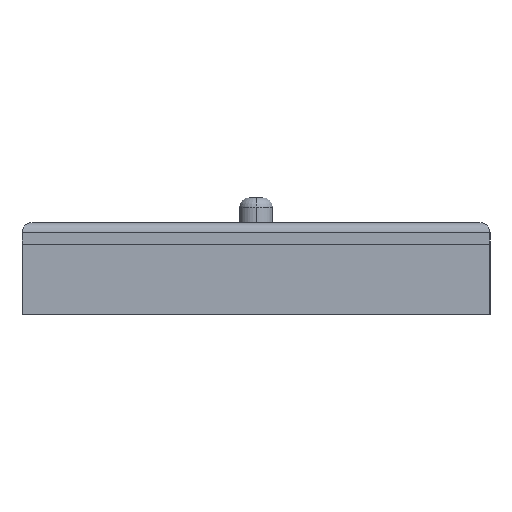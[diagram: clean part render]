
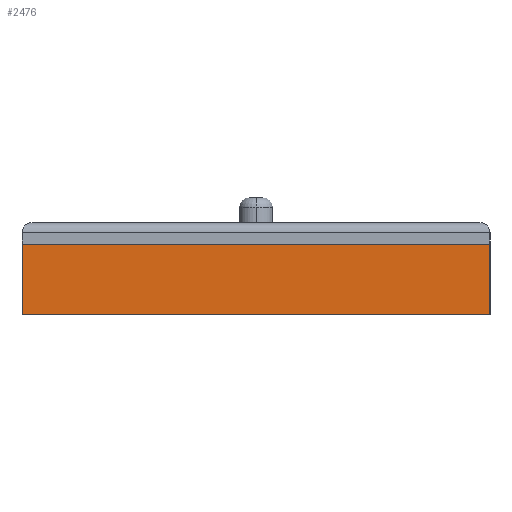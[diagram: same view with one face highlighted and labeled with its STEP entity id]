
A CAD part, left-side view. The second image highlights one B-rep face of the part: STEP entity #2476.
In plain terms, the highlighted planar face has unit normal (-1, 0, 0).
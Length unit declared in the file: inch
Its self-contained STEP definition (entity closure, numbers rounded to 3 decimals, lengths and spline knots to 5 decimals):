
#1381 = CARTESIAN_POINT ( 'NONE',  ( 0.906, 7., -0.32 ) ) ;
#1386 = DIRECTION ( 'NONE',  ( 0., -1., 0. ) ) ;
#2025 = FACE_OUTER_BOUND ( 'NONE', #8421, .T. ) ;
#2476 = ADVANCED_FACE ( 'NONE', ( #2025 ), #5545, .F. ) ;
#3615 = VERTEX_POINT ( 'NONE', #10671 ) ;
#3616 = VERTEX_POINT ( 'NONE', #10672 ) ;
#3623 = VERTEX_POINT ( 'NONE', #7614 ) ;
#3630 = VERTEX_POINT ( 'NONE', #7627 ) ;
#3896 = CARTESIAN_POINT ( 'NONE',  ( 0.906, 0., -0.32 ) ) ;
#3903 = DIRECTION ( 'NONE',  ( 0., 0., -1. ) ) ;
#3910 = CARTESIAN_POINT ( 'NONE',  ( 0.906, 7., -0.32 ) ) ;
#3911 = DIRECTION ( 'NONE',  ( 0., 0., -1. ) ) ;
#4836 = DIRECTION ( 'NONE',  ( 0., -1., 0. ) ) ;
#4838 = CARTESIAN_POINT ( 'NONE',  ( 0.906, 7., -1.37 ) ) ;
#5540 = CARTESIAN_POINT ( 'NONE',  ( 0.906, 7., -0.32 ) ) ;
#5545 = PLANE ( 'NONE',  #5915 ) ;
#5550 = DIRECTION ( 'NONE',  ( 1., 0., 0. ) ) ;
#5551 = DIRECTION ( 'NONE',  ( 0., 1., 0. ) ) ;
#5915 = AXIS2_PLACEMENT_3D ( 'NONE', #5540, #5550, #5551 ) ;
#6237 = LINE ( 'NONE', #4838, #6249 ) ;
#6249 = VECTOR ( 'NONE', #4836, 39.37008 ) ;
#6293 = LINE ( 'NONE', #1381, #6300 ) ;
#6300 = VECTOR ( 'NONE', #1386, 39.37008 ) ;
#6470 = LINE ( 'NONE', #3896, #6481 ) ;
#6481 = VECTOR ( 'NONE', #3903, 39.37008 ) ;
#6489 = LINE ( 'NONE', #3910, #6490 ) ;
#6490 = VECTOR ( 'NONE', #3911, 39.37008 ) ;
#7466 = ORIENTED_EDGE ( 'NONE', *, *, #9493, .T. ) ;
#7467 = ORIENTED_EDGE ( 'NONE', *, *, #9402, .F. ) ;
#7468 = ORIENTED_EDGE ( 'NONE', *, *, #9489, .F. ) ;
#7469 = ORIENTED_EDGE ( 'NONE', *, *, #9376, .T. ) ;
#7614 = CARTESIAN_POINT ( 'NONE',  ( 0.906, 0., -0.32 ) ) ;
#7627 = CARTESIAN_POINT ( 'NONE',  ( 0.906, 0., -1.37 ) ) ;
#8421 = EDGE_LOOP ( 'NONE', ( #7469, #7468, #7467, #7466 ) ) ;
#9376 = EDGE_CURVE ( 'NONE', #3616, #3630, #6237, .T. ) ;
#9402 = EDGE_CURVE ( 'NONE', #3615, #3623, #6293, .T. ) ;
#9489 = EDGE_CURVE ( 'NONE', #3623, #3630, #6470, .T. ) ;
#9493 = EDGE_CURVE ( 'NONE', #3615, #3616, #6489, .T. ) ;
#10671 = CARTESIAN_POINT ( 'NONE',  ( 0.906, 7., -0.32 ) ) ;
#10672 = CARTESIAN_POINT ( 'NONE',  ( 0.906, 7., -1.37 ) ) ;
